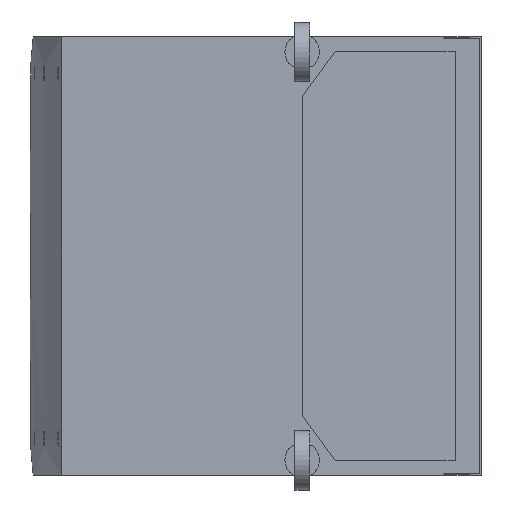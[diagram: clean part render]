
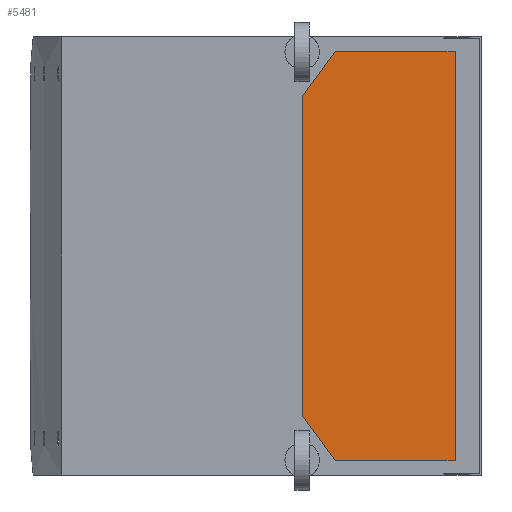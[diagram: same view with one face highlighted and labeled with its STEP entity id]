
A CAD part, left-side view. The second image highlights one B-rep face of the part: STEP entity #5481.
In plain terms, the highlighted planar face has unit normal (-1, 0, 0).
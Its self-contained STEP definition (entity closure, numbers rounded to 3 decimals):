
#203 = VERTEX_POINT ( 'NONE', #3741 ) ;
#1000 = CARTESIAN_POINT ( 'NONE',  ( -248.59, -0.502, 319. ) ) ;
#1181 = DIRECTION ( 'NONE',  ( 0., 0.592, -0.806 ) ) ;
#1194 = VECTOR ( 'NONE', #8685, 1000. ) ;
#1276 = EDGE_CURVE ( 'NONE', #12666, #203, #5365, .T. ) ;
#1569 = ORIENTED_EDGE ( 'NONE', *, *, #8759, .T. ) ;
#1635 = EDGE_CURVE ( 'NONE', #203, #8645, #7968, .T. ) ;
#2886 = ORIENTED_EDGE ( 'NONE', *, *, #14252, .T. ) ;
#3066 = ORIENTED_EDGE ( 'NONE', *, *, #4490, .T. ) ;
#3204 = FACE_OUTER_BOUND ( 'NONE', #6905, .T. ) ;
#3741 = CARTESIAN_POINT ( 'NONE',  ( -248.59, 24.498, 285. ) ) ;
#3773 = VECTOR ( 'NONE', #8179, 1000. ) ;
#4069 = CARTESIAN_POINT ( 'NONE',  ( -248.59, 24.498, 45. ) ) ;
#4106 = CARTESIAN_POINT ( 'NONE',  ( -248.59, -0.502, 11. ) ) ;
#4490 = EDGE_CURVE ( 'NONE', #8645, #10554, #13205, .T. ) ;
#4607 = ORIENTED_EDGE ( 'NONE', *, *, #1635, .T. ) ;
#4850 = VECTOR ( 'NONE', #13435, 1000. ) ;
#5046 = VECTOR ( 'NONE', #5505, 1000. ) ;
#5319 = CARTESIAN_POINT ( 'NONE',  ( -248.59, -90.502, 11. ) ) ;
#5365 = LINE ( 'NONE', #7860, #7452 ) ;
#5481 = ADVANCED_FACE ( 'NONE', ( #3204 ), #7456, .T. ) ;
#5505 = DIRECTION ( 'NONE',  ( 0., 0., -1. ) ) ;
#5602 = DIRECTION ( 'NONE',  ( 0., 0., 1. ) ) ;
#6428 = ORIENTED_EDGE ( 'NONE', *, *, #1276, .T. ) ;
#6905 = EDGE_LOOP ( 'NONE', ( #2886, #6428, #4607, #3066, #11667, #1569 ) ) ;
#7125 = AXIS2_PLACEMENT_3D ( 'NONE', #7728, #8820, #5602 ) ;
#7338 = CARTESIAN_POINT ( 'NONE',  ( -248.59, -90.502, 11. ) ) ;
#7345 = DIRECTION ( 'NONE',  ( 0., -0.592, -0.806 ) ) ;
#7452 = VECTOR ( 'NONE', #1181, 1000. ) ;
#7456 = PLANE ( 'NONE',  #7125 ) ;
#7728 = CARTESIAN_POINT ( 'NONE',  ( -248.59, 0., 0. ) ) ;
#7860 = CARTESIAN_POINT ( 'NONE',  ( -248.59, 24.498, 285. ) ) ;
#7968 = LINE ( 'NONE', #12960, #5046 ) ;
#8179 = DIRECTION ( 'NONE',  ( 0., 1., 0. ) ) ;
#8357 = LINE ( 'NONE', #5319, #1194 ) ;
#8645 = VERTEX_POINT ( 'NONE', #4069 ) ;
#8685 = DIRECTION ( 'NONE',  ( 0., 0., 1. ) ) ;
#8759 = EDGE_CURVE ( 'NONE', #9929, #10420, #8357, .T. ) ;
#8820 = DIRECTION ( 'NONE',  ( -1., 0., 0. ) ) ;
#9135 = CARTESIAN_POINT ( 'NONE',  ( -248.59, -90.502, 319. ) ) ;
#9908 = CARTESIAN_POINT ( 'NONE',  ( -248.59, -0.502, 11. ) ) ;
#9929 = VERTEX_POINT ( 'NONE', #7338 ) ;
#10420 = VERTEX_POINT ( 'NONE', #9135 ) ;
#10554 = VERTEX_POINT ( 'NONE', #13085 ) ;
#10589 = VECTOR ( 'NONE', #7345, 1000. ) ;
#11495 = CARTESIAN_POINT ( 'NONE',  ( -248.59, -0.502, 319. ) ) ;
#11667 = ORIENTED_EDGE ( 'NONE', *, *, #13172, .T. ) ;
#11992 = LINE ( 'NONE', #9908, #4850 ) ;
#12666 = VERTEX_POINT ( 'NONE', #1000 ) ;
#12960 = CARTESIAN_POINT ( 'NONE',  ( -248.59, 24.498, 45. ) ) ;
#13085 = CARTESIAN_POINT ( 'NONE',  ( -248.59, -0.502, 11. ) ) ;
#13172 = EDGE_CURVE ( 'NONE', #10554, #9929, #11992, .T. ) ;
#13205 = LINE ( 'NONE', #4106, #10589 ) ;
#13435 = DIRECTION ( 'NONE',  ( 0., -1., 0. ) ) ;
#14080 = LINE ( 'NONE', #11495, #3773 ) ;
#14252 = EDGE_CURVE ( 'NONE', #10420, #12666, #14080, .T. ) ;
